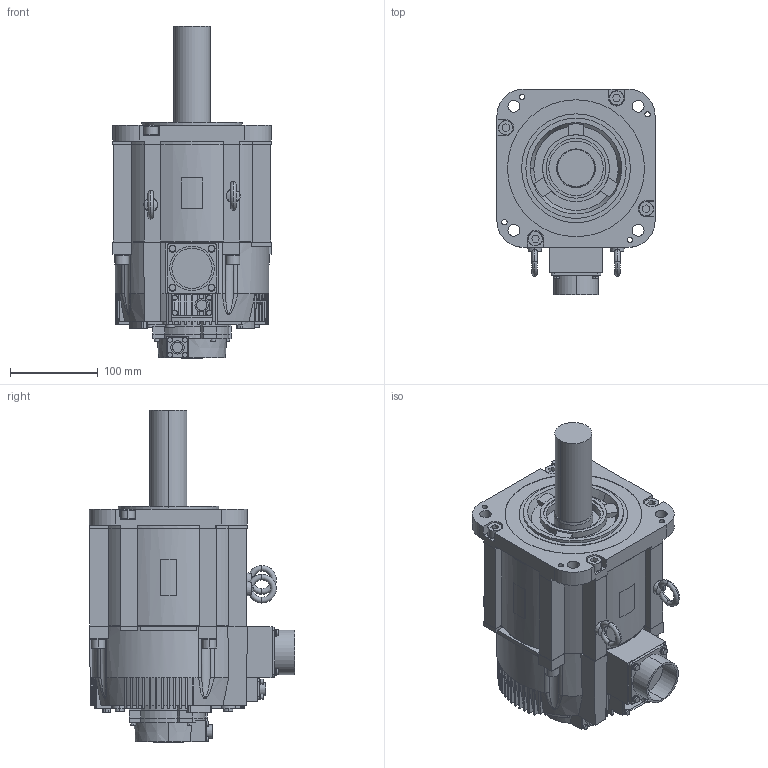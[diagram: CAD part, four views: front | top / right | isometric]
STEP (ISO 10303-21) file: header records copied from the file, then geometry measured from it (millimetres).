
FILE_DESCRIPTION (( 'STEP AP203' ), '1' );
FILE_NAME ('sgm7g_55__a2c.STEP', '2014-05-07T05:10:04', ( '匠エンジニアリング山之内' ), ( 'TAKUMI-Engniaring' ), 'SwSTEP 2.0', 'SolidWorks 2006303', '' );
FILE_SCHEMA (( 'CONFIG_CONTROL_DESIGN' ));
Length unit declared in the file: millimetre
Products named in the file (3): sgm7g_55__a2c_eyebolt; sgm7g_55__a2c_base; sgm7g_55__a2c
Assembly tree (3 placements, depth 2):
  sgm7g_55__a2c
    sgm7g_55__a2c_eyebolt  x2
    sgm7g_55__a2c_base
Bounding box: 180 x 233.75 x 378.1 mm (x, y, z)
Volume: 6323043.3 mm3; surface area: 316908.4 mm2
Topology: 3 solids, 3 shells, 1060 faces, 2739 edges, 1779 vertices
Faces by surface type: plane 643, cylinder 307, cone 98, torus 8, bspline 4
Entity records: 33896 total; most frequent: CARTESIAN_POINT 7460, DIRECTION 5534, ORIENTED_EDGE 5424, EDGE_CURVE 2712, AXIS2_PLACEMENT_3D 1978, VERTEX_POINT 1763, LINE 1578, VECTOR 1578
